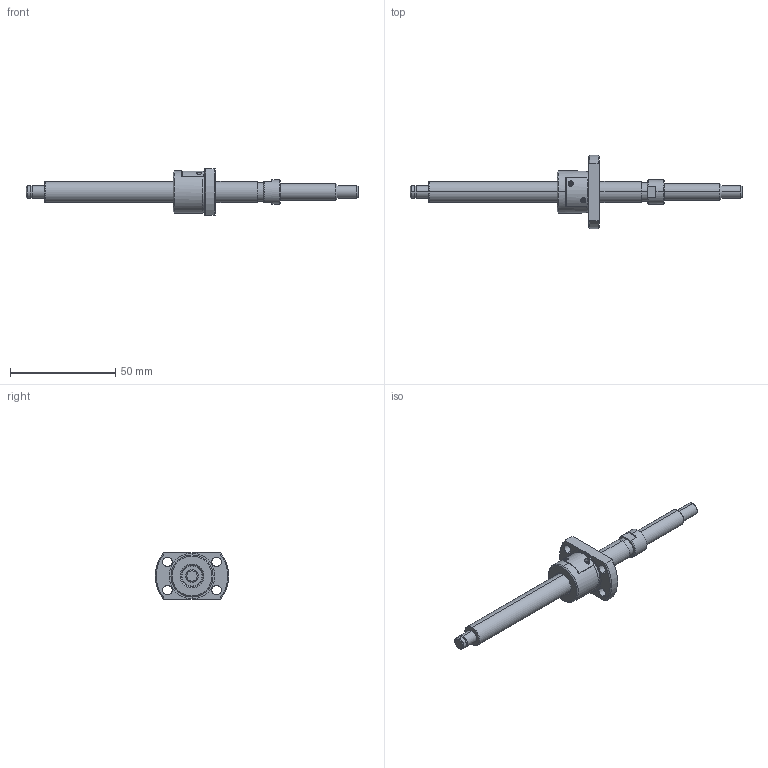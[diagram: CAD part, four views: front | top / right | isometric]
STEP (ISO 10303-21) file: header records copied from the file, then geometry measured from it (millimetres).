
FILE_DESCRIPTION (( 'STEP AP214' ), '1' );
FILE_NAME ('BS1001P-3D.STEP', '2014-03-05T15:16:31', ( '' ), ( '' ), 'SwSTEP 2.0', 'SolidWorks 2012', '' );
FILE_SCHEMA (( 'AUTOMOTIVE_DESIGN' ));
Length unit declared in the file: millimetre
Products named in the file (3): BS1001Pナット; BS1001PŽ²; BS1001P-3D
Assembly tree (2 placements, depth 2):
  BS1001P-3D
    BS1001PŽ²
    BS1001Pナット
Bounding box: 158 x 35 x 22 mm (x, y, z)
Volume: 16973.1 mm3; surface area: 8461.6 mm2
Topology: 2 solids, 2 shells, 139 faces, 332 edges, 212 vertices
Faces by surface type: plane 58, cylinder 55, cone 26
Entity records: 4318 total; most frequent: CARTESIAN_POINT 882, DIRECTION 732, ORIENTED_EDGE 664, EDGE_CURVE 332, AXIS2_PLACEMENT_3D 276, VERTEX_POINT 212, VECTOR 180, LINE 180
